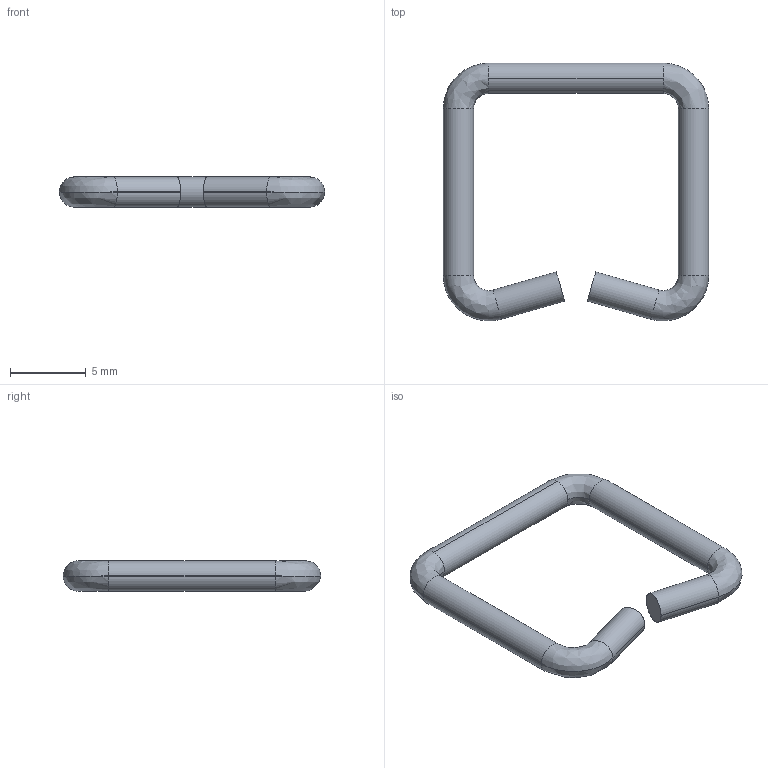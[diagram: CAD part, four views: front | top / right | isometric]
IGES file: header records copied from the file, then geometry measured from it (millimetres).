
Start section: SolidWorks IGES FILE using analytic representation for surfaces
Global section: file name: C:\WINNT\Profiles\cbrechard\Bureau\GO 564\532.200.00.IGS; native system: SolidWorks 2001Plus by SolidWorks Corporation; preprocessor: Version 5.3; author: CBRECHARD; date: 050125.144754; units: millimetre
Bounding box: 17.5 x 17 x 2 mm (x, y, z)
Surface area: 357.3 mm2 (no closed solid volume)
Topology: 0 solids, 0 shells, 20 faces, 144 edges, 144 vertices
Faces by surface type: bspline 10, revolution 10
